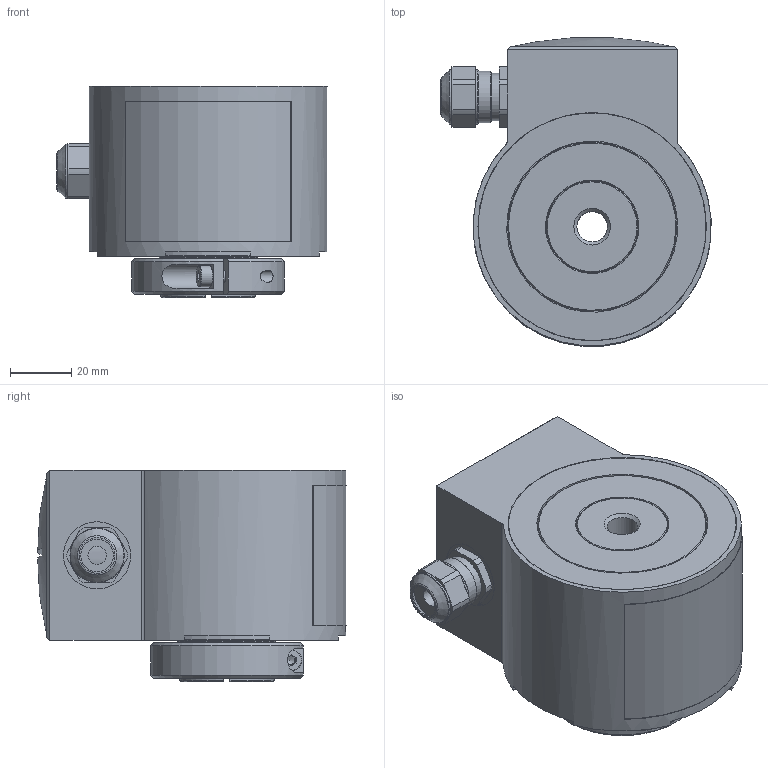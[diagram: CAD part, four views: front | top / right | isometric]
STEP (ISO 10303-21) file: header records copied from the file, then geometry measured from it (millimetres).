
FILE_DESCRIPTION (( 'STEP AP214' ), '1' );
FILE_NAME ('HW730 10mm.STEP', '2012-06-21T06:06:27', ( 'Camille Bauer AG' ), ( '' ), 'SwSTEP 2.0', 'SolidWorks 2010', '' );
FILE_SCHEMA (( 'AUTOMOTIVE_DESIGN' ));
Length unit declared in the file: millimetre
Products named in the file (1): HW730 10mm
Bounding box: 88.41 x 100.97 x 69.2 mm (x, y, z)
Volume: 358552.3 mm3; surface area: 98367.8 mm2
Topology: 10 solids, 12 shells, 285 faces, 671 edges, 436 vertices
Faces by surface type: plane 131, cylinder 80, cone 66, bspline 6, sphere 1, torus 1
Full cylindrical faces by diameter (mm): 3.3 x6, 4 x3, 6 x1, 7 x1, 10 x1, 10.7 x1, 12 x1, 12.1 x1, 13.5 x1, 13.93 x1, 14.5 x1, 15.59 x1, 16 x2, 16.2 x1, 16.79 x1, 17.8 x2, 22 x1, 29 x1, 30 x2, 30.07 x1, 30.2 x1, 32.025 x2, 32.072 x2, 32.08 x1, 35 x1, 35.003 x1, 44 x1, 45 x1, 51.5 x1, 52 x1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
Entity records: 11627 total; most frequent: CARTESIAN_POINT 2375, DIRECTION 1261, ORIENTED_EDGE 1074, EDGE_CURVE 537, AXIS2_PLACEMENT_3D 524, EDGE_LOOP 426, VERTEX_POINT 399, FACE_OUTER_BOUND 340
